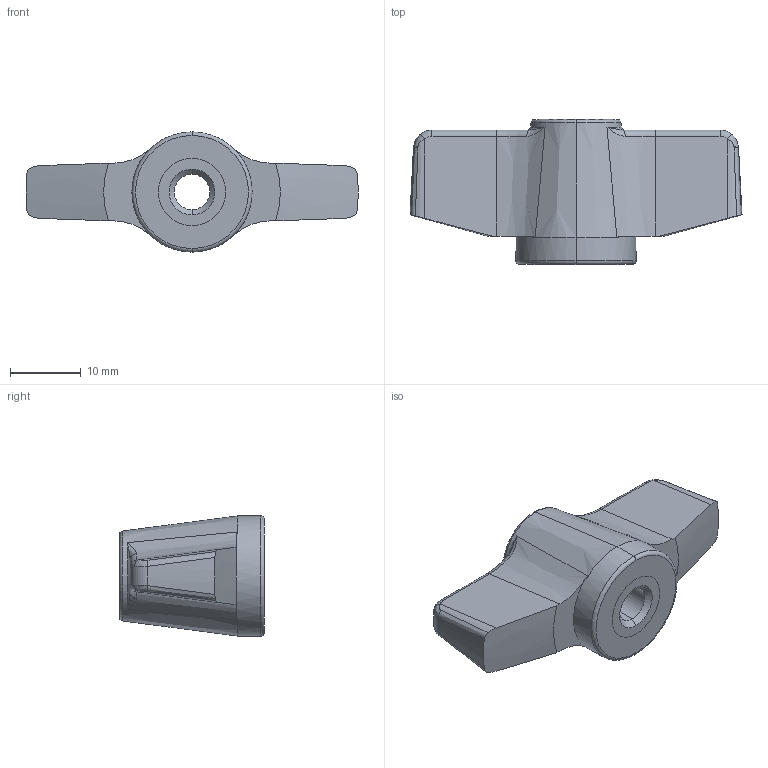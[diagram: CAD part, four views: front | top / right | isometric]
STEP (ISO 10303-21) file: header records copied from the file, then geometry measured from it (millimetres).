
FILE_DESCRIPTION (( 'STEP AP203' ), '1' );
FILE_NAME ('wn715-3_d_m6.step', '2007-01-19T12:37:38', ( 'Magnus Fahlstrom' ), ( '' ), 'SwSTEP 2.0', 'SolidWorks 2007', '' );
FILE_SCHEMA (( 'CONFIG_CONTROL_DESIGN' ));
Length unit declared in the file: millimetre
Products named in the file (1): wn715-3_d_m6
Bounding box: 46.97 x 20.5 x 17 mm (x, y, z)
Volume: 5839.9 mm3; surface area: 3734.9 mm2
Topology: 2 solids, 2 shells, 68 faces, 164 edges, 96 vertices
Faces by surface type: cone 16, bspline 16, cylinder 12, torus 12, plane 12
Entity records: 2451 total; most frequent: CARTESIAN_POINT 909, ORIENTED_EDGE 320, DIRECTION 294, EDGE_CURVE 160, AXIS2_PLACEMENT_3D 129, VERTEX_POINT 96, CIRCLE 76, EDGE_LOOP 72
